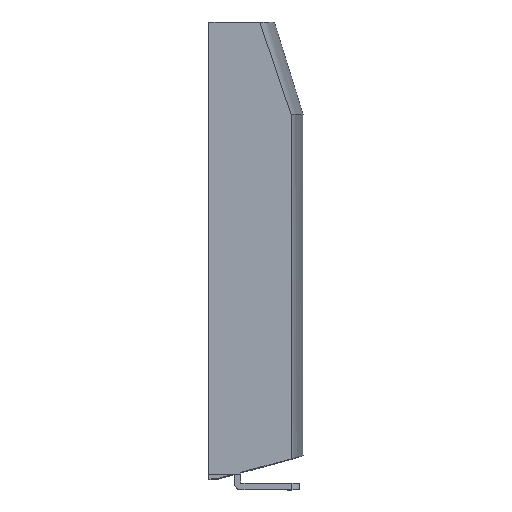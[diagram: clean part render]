
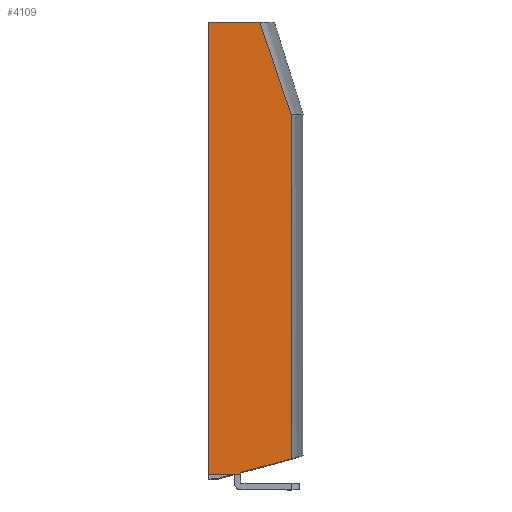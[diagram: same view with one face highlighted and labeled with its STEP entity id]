
A CAD part, top view. The second image highlights one B-rep face of the part: STEP entity #4109.
In plain terms, the highlighted planar face has unit normal (0, 0, 1).
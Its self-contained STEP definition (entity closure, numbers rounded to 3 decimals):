
#77 = VECTOR ( 'NONE', #340, 1000. ) ;
#79 = VECTOR ( 'NONE', #345, 1000. ) ;
#80 = VECTOR ( 'NONE', #348, 1000. ) ;
#81 = VECTOR ( 'NONE', #351, 1000. ) ;
#83 = VECTOR ( 'NONE', #356, 1000. ) ;
#117 = AXIS2_PLACEMENT_3D ( 'NONE', #457, #468, #469 ) ;
#328 = CARTESIAN_POINT ( 'NONE',  ( 28.013, 146.461, 60. ) ) ;
#337 = LINE ( 'NONE', #339, #77 ) ;
#338 = CARTESIAN_POINT ( 'NONE',  ( 32.078, 134.461, 60. ) ) ;
#339 = CARTESIAN_POINT ( 'NONE',  ( 0., -6.039, 60. ) ) ;
#340 = DIRECTION ( 'NONE',  ( 1., 0., 0. ) ) ;
#343 = LINE ( 'NONE', #344, #79 ) ;
#344 = CARTESIAN_POINT ( 'NONE',  ( 12.5, -9.5, 60. ) ) ;
#345 = DIRECTION ( 'NONE',  ( 0., -1., 0. ) ) ;
#346 = LINE ( 'NONE', #347, #80 ) ;
#347 = CARTESIAN_POINT ( 'NONE',  ( 12.5, -5.302, 60. ) ) ;
#348 = DIRECTION ( 'NONE',  ( -0.966, -0.259, 0. ) ) ;
#349 = LINE ( 'NONE', #350, #81 ) ;
#350 = CARTESIAN_POINT ( 'NONE',  ( 32.078, -64.08, 60. ) ) ;
#351 = DIRECTION ( 'NONE',  ( 0., 1., 0. ) ) ;
#352 = CARTESIAN_POINT ( 'NONE',  ( 23.948, 158.461, 60. ) ) ;
#353 = CARTESIAN_POINT ( 'NONE',  ( 19.883, 170.461, 60. ) ) ;
#354 = LINE ( 'NONE', #355, #83 ) ;
#355 = CARTESIAN_POINT ( 'NONE',  ( 0., 170.461, 60. ) ) ;
#356 = DIRECTION ( 'NONE',  ( 0., 1., 0. ) ) ;
#457 = CARTESIAN_POINT ( 'NONE',  ( 0., 170.461, 60. ) ) ;
#465 = FACE_OUTER_BOUND ( 'NONE', #856, .T. ) ;
#466 = PLANE ( 'NONE',  #117 ) ;
#468 = DIRECTION ( 'NONE',  ( 0., 0., -1. ) ) ;
#469 = DIRECTION ( 'NONE',  ( 0., -1., 0. ) ) ;
#821 = VERTEX_POINT ( 'NONE', #4314 ) ;
#823 = VERTEX_POINT ( 'NONE', #1968 ) ;
#856 = EDGE_LOOP ( 'NONE', ( #1171, #1172, #1173, #1174, #1175, #1176, #1177 ) ) ;
#1171 = ORIENTED_EDGE ( 'NONE', *, *, #4077, .T. ) ;
#1172 = ORIENTED_EDGE ( 'NONE', *, *, #4079, .F. ) ;
#1173 = ORIENTED_EDGE ( 'NONE', *, *, #4080, .F. ) ;
#1174 = ORIENTED_EDGE ( 'NONE', *, *, #4081, .T. ) ;
#1175 = ORIENTED_EDGE ( 'NONE', *, *, #4082, .T. ) ;
#1176 = ORIENTED_EDGE ( 'NONE', *, *, #1522, .F. ) ;
#1177 = ORIENTED_EDGE ( 'NONE', *, *, #4083, .F. ) ;
#1217 = VERTEX_POINT ( 'NONE', #2023 ) ;
#1221 = VERTEX_POINT ( 'NONE', #2027 ) ;
#1222 = VERTEX_POINT ( 'NONE', #2028 ) ;
#1224 = VERTEX_POINT ( 'NONE', #2030 ) ;
#1226 = VERTEX_POINT ( 'NONE', #2032 ) ;
#1522 = EDGE_CURVE ( 'NONE', #821, #823, #2236, .T. ) ;
#1968 = CARTESIAN_POINT ( 'NONE',  ( 19.883, 170.461, 60. ) ) ;
#2023 = CARTESIAN_POINT ( 'NONE',  ( 12.5, -6.039, 60. ) ) ;
#2027 = CARTESIAN_POINT ( 'NONE',  ( 0., -6.039, 60. ) ) ;
#2028 = CARTESIAN_POINT ( 'NONE',  ( 12.5, -5.302, 60. ) ) ;
#2030 = CARTESIAN_POINT ( 'NONE',  ( 32.078, -0.056, 60. ) ) ;
#2032 = CARTESIAN_POINT ( 'NONE',  ( 32.078, 134.461, 60. ) ) ;
#2236 = LINE ( 'NONE', #2237, #3835 ) ;
#2237 = CARTESIAN_POINT ( 'NONE',  ( 0., 170.461, 60. ) ) ;
#2238 = DIRECTION ( 'NONE',  ( 1., 0., 0. ) ) ;
#3835 = VECTOR ( 'NONE', #2238, 1000. ) ;
#4077 = EDGE_CURVE ( 'NONE', #1221, #1217, #337, .T. ) ;
#4079 = EDGE_CURVE ( 'NONE', #1222, #1217, #343, .T. ) ;
#4080 = EDGE_CURVE ( 'NONE', #1224, #1222, #346, .T. ) ;
#4081 = EDGE_CURVE ( 'NONE', #1224, #1226, #349, .T. ) ;
#4082 = EDGE_CURVE ( 'NONE', #1226, #823, #4243, .T. ) ;
#4083 = EDGE_CURVE ( 'NONE', #1221, #821, #354, .T. ) ;
#4109 = ADVANCED_FACE ( 'NONE', ( #465 ), #466, .F. ) ;
#4243 = B_SPLINE_CURVE_WITH_KNOTS ( 'NONE', 3,
 ( #338, #328, #352, #353 ),
 .UNSPECIFIED., .F., .F.,
 ( 4, 4 ),
 ( 0., 1. ),
 .UNSPECIFIED. ) ;
#4314 = CARTESIAN_POINT ( 'NONE',  ( 0., 170.461, 60. ) ) ;
